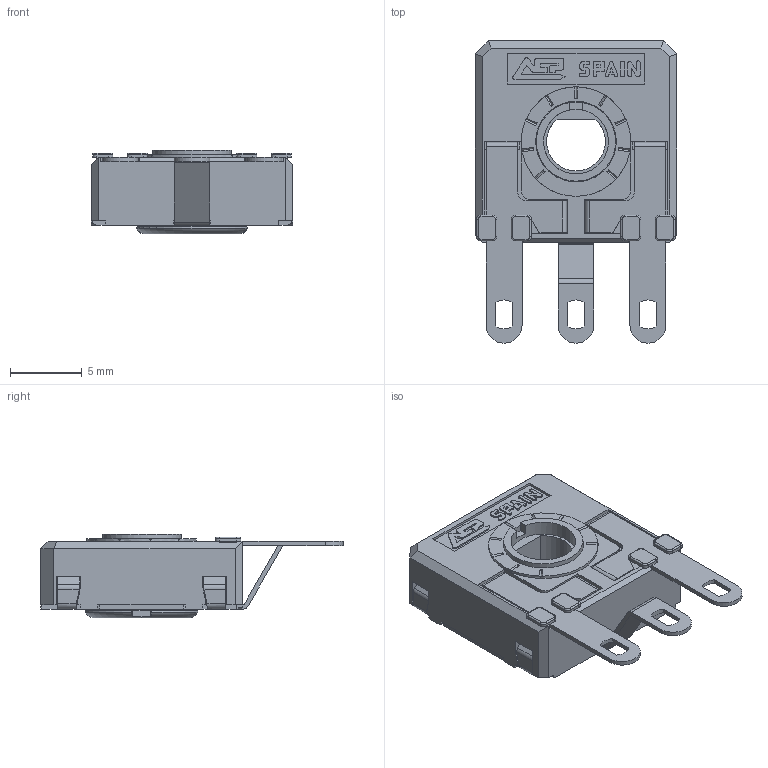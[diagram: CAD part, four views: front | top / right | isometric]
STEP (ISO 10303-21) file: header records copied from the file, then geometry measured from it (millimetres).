
FILE_DESCRIPTION(/* description */ (''),/* implementation_level */ '2;1');
FILE_NAME(/* name */ 'COMCA14DHC0.stp',/* time_stamp */ '2026-04-01T16:27:41+02:00',/* author */ ('CEM'),/* organization */ (''),/* preprocessor_version */ 'ST-DEVELOPER v20.1',/* originating_system */ 'Autodesk Inventor 2026',/* authorisation */ '');
FILE_SCHEMA (('AUTOMOTIVE_DESIGN { 1 0 10303 214 3 1 1 }'));
Length unit declared in the file: millimetre
Products named in the file (1): CARCASA CA14 PGA
Bounding box: 14 x 21 x 5.8 mm (x, y, z)
Volume: 530 mm3; surface area: 1484.6 mm2
Topology: 1 solids, 1 shells, 655 faces, 1842 edges, 1183 vertices
Faces by surface type: plane 475, cylinder 143, torus 23, bspline 8, cone 6
Full cylindrical faces by diameter (mm): 4.5 x1, 5.5 x1, 5.6 x1, 5.752 x1, 6.8 x1, 7.6 x1
Entity records: 21349 total; most frequent: CARTESIAN_POINT 3978, ORIENTED_EDGE 3684, DIRECTION 3458, EDGE_CURVE 1842, LINE 1432, VECTOR 1432, VERTEX_POINT 1183, AXIS2_PLACEMENT_3D 1013
